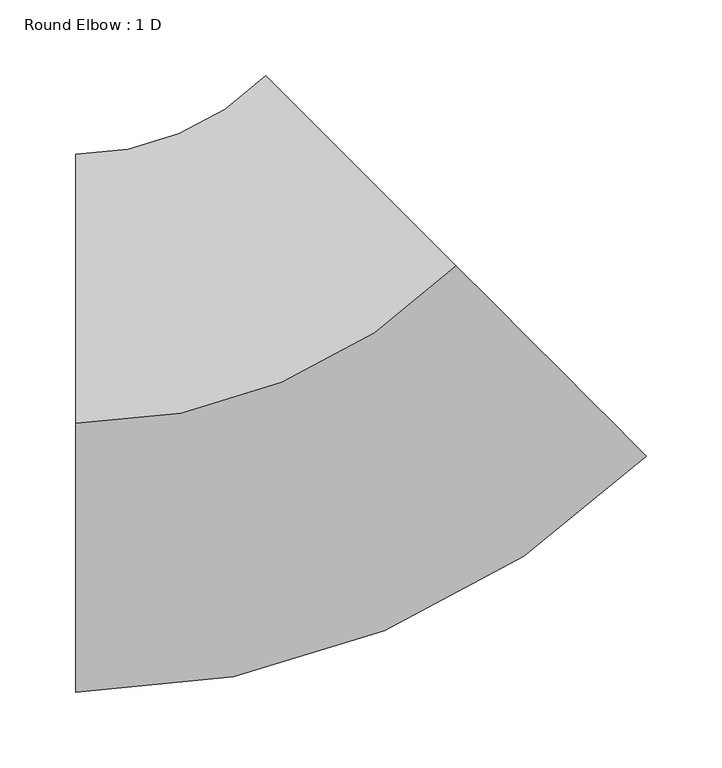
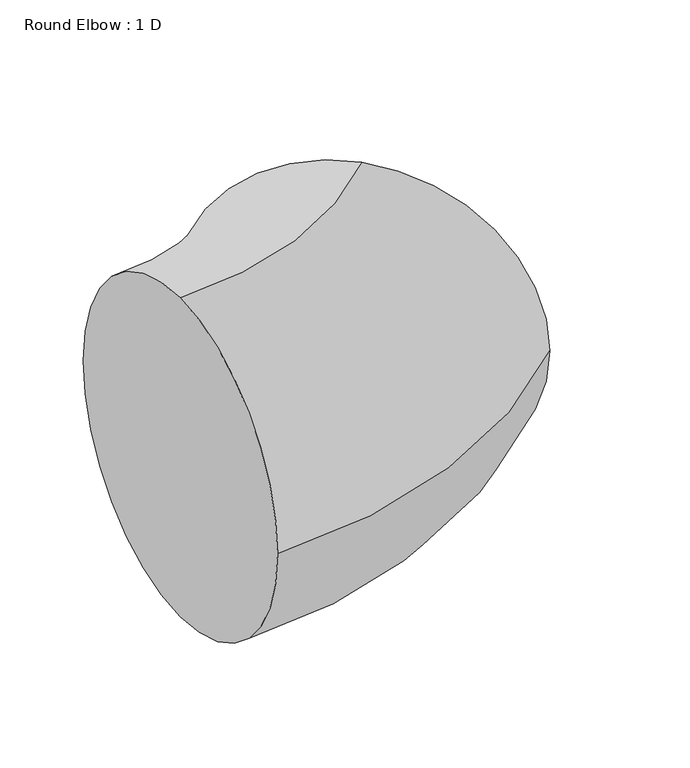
"""IFC4 building model written with IfcOpenShell, lengths in millimetres: duct fitting geometry, Round Elbow : 1 D."""

from ifc_helpers import new_model, si_unit, point, frame, origin, place, context, project, spatial, circle_curve, ellipse_curve, trimmed, source, transform, mapped, element, save
from ifc_brep_helpers import plane_surface, revolved_surface, advanced_brep


def round_elbow_1_d_9b829473(model_context):
    return source(origin(), model_context, "Body", "AdvancedBrep", [
        advanced_brep(
        [(-147.2898451, 0.0, 177.8), (-147.2898451, 177.8, 0.0), (-147.2898451, 0.0, -177.8), (-147.2898451, -177.8, 0.0), (104.151897, 104.1473994, 177.8), (229.8727681, -21.5789009, 0.0), (104.151897, 104.1473994, -177.8), (-21.568974, 229.8736997, 0.0)],
        [
            (0, 1, circle_curve(frame((-147.2898451, 0.0, 0.0), z_axis=(-1.0, 0.0, 0.0), x_axis=(0.0, 1.0, 0.0)), 177.8)),
            (1, 2, circle_curve(frame((-147.2898451, 0.0, 0.0), z_axis=(-1.0, 0.0, 0.0), x_axis=(0.0, 1.0, 0.0)), 177.8)),
            (2, 3, circle_curve(frame((-147.2898451, 0.0, 0.0), z_axis=(-1.0, 0.0, 0.0), x_axis=(0.0, 1.0, 0.0)), 177.8)),
            (3, 0, circle_curve(frame((-147.2898451, 0.0, 0.0), z_axis=(-1.0, 0.0, 0.0), x_axis=(0.0, 1.0, 0.0)), 177.8)),
            (4, 5, circle_curve(frame((104.151897, 104.1473994, 0.0), z_axis=(0.7071220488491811, 0.7070915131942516, 0.0), x_axis=(-0.7070915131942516, 0.7071220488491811, 0.0)), 177.8)),
            (5, 6, circle_curve(frame((104.151897, 104.1473994, 0.0), z_axis=(0.7071220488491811, 0.7070915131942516, 0.0), x_axis=(-0.7070915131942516, 0.7071220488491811, 0.0)), 177.8)),
            (6, 7, circle_curve(frame((104.151897, 104.1473994, 0.0), z_axis=(0.7071220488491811, 0.7070915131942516, 0.0), x_axis=(-0.7070915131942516, 0.7071220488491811, 0.0)), 177.8)),
            (7, 4, circle_curve(frame((104.151897, 104.1473994, 0.0), z_axis=(0.7071220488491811, 0.7070915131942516, 0.0), x_axis=(-0.7070915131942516, 0.7071220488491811, 0.0)), 177.8)),
            (7, 1, circle_curve(frame((-147.2898451, 355.6, 0.0), z_axis=(0.0, 0.0, -1.0), x_axis=(0.0, -1.0, 0.0)), 177.8)),
            (0, 4, circle_curve(frame((-147.2898451, 355.6, 177.8), z_axis=(0.0, 0.0, 1.0), x_axis=(0.0, -1.0, 0.0)), 355.6)),
            (6, 2, circle_curve(frame((-147.2898451, 355.6, -177.8), z_axis=(0.0, 0.0, -1.0), x_axis=(0.0, -1.0, 0.0)), 355.6)),
            (5, 3, circle_curve(frame((-147.2898451, 355.6, 0.0), z_axis=(0.0, 0.0, -1.0), x_axis=(0.0, -1.0, 0.0)), 533.4)),
        ],
        [
            plane_surface(frame((-147.2898451, 0.0, 0.0), z_axis=(-1.0, 0.0, 0.0), x_axis=(0.0, 0.0, 1.0))),
            plane_surface(frame((104.151897, 104.1473994, 0.0), z_axis=(0.7071220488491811, 0.7070915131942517, 0.0), x_axis=(0.0, 0.0, 1.0))),
            revolved_surface(trimmed(ellipse_curve(frame((-147.2898451, 0.0, 0.0), z_axis=(-1.0, 0.0, 0.0), x_axis=(0.0, 1.0, 0.0)), 177.8, 177.8), [point((-147.2898451, 0.0, 177.8))], [point((-147.2898451, 177.8, 0.0))], True, "CARTESIAN"), (-147.2898451, 355.6, 0.0), (0.0, 0.0, 1.0)),
            revolved_surface(trimmed(ellipse_curve(frame((-147.2898451, 0.0, 0.0), z_axis=(-1.0, 0.0, 0.0), x_axis=(0.0, 1.0, 0.0)), 177.8, 177.8), [point((-147.2898451, 177.8, 0.0))], [point((-147.2898451, 0.0, -177.8))], True, "CARTESIAN"), (-147.2898451, 355.6, 0.0), (0.0, 0.0, 1.0)),
            revolved_surface(trimmed(ellipse_curve(frame((-147.2898451, 0.0, 0.0), z_axis=(-1.0, 0.0, 0.0), x_axis=(0.0, 1.0, 0.0)), 177.8, 177.8), [point((-147.2898451, 0.0, -177.8))], [point((-147.2898451, -177.8, 0.0))], True, "CARTESIAN"), (-147.2898451, 355.6, 0.0), (0.0, 0.0, 1.0)),
            revolved_surface(trimmed(ellipse_curve(frame((-147.2898451, 0.0, 0.0), z_axis=(-1.0, 0.0, 0.0), x_axis=(0.0, 1.0, 0.0)), 177.8, 177.8), [point((-147.2898451, -177.8, 0.0))], [point((-147.2898451, 0.0, 177.8))], True, "CARTESIAN"), (-147.2898451, 355.6, 0.0), (0.0, 0.0, 1.0)),
        ],
        [
            (0, [[1, 2, 3, 4]]),
            (1, [[5, 6, 7, 8]]),
            (2, [[9, -1, 10, -8]]),
            (3, [[11, -2, -9, -7]]),
            (4, [[12, -3, -11, -6]]),
            (5, [[-10, -4, -12, -5]]),
        ],
    ),
    ])


if __name__ == "__main__":
    model = new_model("IFC4")
    model_context = context("Model", 3, world=origin())
    ifc_project = project(units=[si_unit("LENGTHUNIT", "METRE", prefix="MILLI")], contexts=[model_context])
    site = spatial("IfcSite", under=ifc_project)
    building = spatial("IfcBuilding", under=site)
    placement = place(None, origin())
    round_elbow_1_d_shape = round_elbow_1_d_9b829473(model_context)
    element("IfcDuctFitting", 1, ObjectType="Round Elbow : 1 D", at=placement, inside=building, context=model_context, shape_type="MappedRepresentation", body=[
        mapped(round_elbow_1_d_shape, transform((0.0, 0.0, 0.0), x_axis=(1.0, 0.0, 0.0), y_axis=(0.0, 1.0, 0.0), z_axis=(0.0, 0.0, 1.0))),
    ])
    save(model, "model.ifc")
